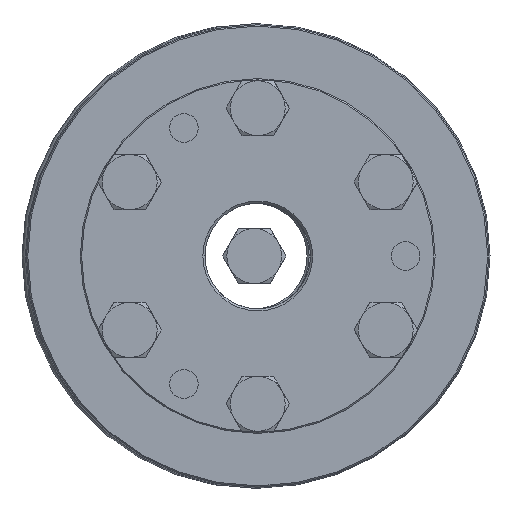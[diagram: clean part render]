
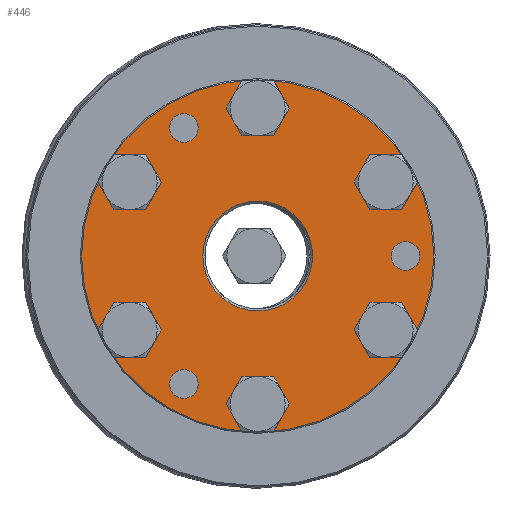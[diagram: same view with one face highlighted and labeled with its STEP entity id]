
A CAD part, left-side view. The second image highlights one B-rep face of the part: STEP entity #446.
In plain terms, the highlighted planar face has unit normal (-1, 0, 0).
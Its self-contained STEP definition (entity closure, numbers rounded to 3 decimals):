
#446 = ADVANCED_FACE( 'NONE', ( #844, #845, #846, #847, #848, #849, #850, #851, #852, #853, #854 ), #855, .F. );
#844 = FACE_OUTER_BOUND( '', #1197, .T. );
#845 = FACE_BOUND( '', #1198, .T. );
#846 = FACE_BOUND( '', #1199, .T. );
#847 = FACE_BOUND( '', #1200, .T. );
#848 = FACE_BOUND( '', #1201, .T. );
#849 = FACE_BOUND( '', #1202, .T. );
#850 = FACE_BOUND( '', #1203, .T. );
#851 = FACE_BOUND( '', #1204, .T. );
#852 = FACE_BOUND( '', #1205, .T. );
#853 = FACE_BOUND( '', #1206, .T. );
#854 = FACE_BOUND( '', #1207, .T. );
#855 = PLANE( '', #1208 );
#1197 = EDGE_LOOP( '', ( #1731 ) );
#1198 = EDGE_LOOP( '', ( #1732 ) );
#1199 = EDGE_LOOP( '', ( #1733 ) );
#1200 = EDGE_LOOP( '', ( #1734 ) );
#1201 = EDGE_LOOP( '', ( #1735 ) );
#1202 = EDGE_LOOP( '', ( #1736 ) );
#1203 = EDGE_LOOP( '', ( #1737 ) );
#1204 = EDGE_LOOP( '', ( #1738 ) );
#1205 = EDGE_LOOP( '', ( #1739 ) );
#1206 = EDGE_LOOP( '', ( #1740 ) );
#1207 = EDGE_LOOP( '', ( #1741 ) );
#1208 = AXIS2_PLACEMENT_3D( '', #1742, #1743, #1744 );
#1731 = ORIENTED_EDGE( '', *, *, #2013, .T. );
#1732 = ORIENTED_EDGE( '', *, *, #2014, .T. );
#1733 = ORIENTED_EDGE( '', *, *, #2015, .F. );
#1734 = ORIENTED_EDGE( '', *, *, #2016, .F. );
#1735 = ORIENTED_EDGE( '', *, *, #2001, .F. );
#1736 = ORIENTED_EDGE( '', *, *, #2017, .F. );
#1737 = ORIENTED_EDGE( '', *, *, #2018, .F. );
#1738 = ORIENTED_EDGE( '', *, *, #2019, .F. );
#1739 = ORIENTED_EDGE( '', *, *, #2020, .F. );
#1740 = ORIENTED_EDGE( '', *, *, #1999, .F. );
#1741 = ORIENTED_EDGE( '', *, *, #2021, .F. );
#1742 = CARTESIAN_POINT( '', ( 0., 12.5, 0. ) );
#1743 = DIRECTION( '', ( 1., 0., 0. ) );
#1744 = DIRECTION( '', ( 0., 1., 0. ) );
#1999 = EDGE_CURVE( 'NONE', #2220, #2220, #2221, .T. );
#2001 = EDGE_CURVE( 'NONE', #2224, #2224, #2225, .T. );
#2013 = EDGE_CURVE( 'NONE', #2248, #2248, #2249, .T. );
#2014 = EDGE_CURVE( 'NONE', #2250, #2250, #2251, .T. );
#2015 = EDGE_CURVE( 'NONE', #2252, #2252, #2253, .T. );
#2016 = EDGE_CURVE( 'NONE', #2254, #2254, #2255, .T. );
#2017 = EDGE_CURVE( 'NONE', #2256, #2256, #2257, .T. );
#2018 = EDGE_CURVE( 'NONE', #2258, #2258, #2259, .T. );
#2019 = EDGE_CURVE( 'NONE', #2260, #2260, #2261, .T. );
#2020 = EDGE_CURVE( 'NONE', #2262, #2262, #2263, .T. );
#2021 = EDGE_CURVE( 'NONE', #2264, #2264, #2265, .T. );
#2220 = VERTEX_POINT( '', #2432 );
#2221 = CIRCLE( '', #2433, 3.4 );
#2224 = VERTEX_POINT( '', #2436 );
#2225 = CIRCLE( '', #2437, 4.25 );
#2248 = VERTEX_POINT( '', #2460 );
#2249 = CIRCLE( '', #2461, 41.7 );
#2250 = VERTEX_POINT( '', #2462 );
#2251 = CIRCLE( '', #2463, 13. );
#2252 = VERTEX_POINT( '', #2464 );
#2253 = CIRCLE( '', #2465, 3.4 );
#2254 = VERTEX_POINT( '', #2466 );
#2255 = CIRCLE( '', #2467, 4.25 );
#2256 = VERTEX_POINT( '', #2468 );
#2257 = CIRCLE( '', #2469, 4.25 );
#2258 = VERTEX_POINT( '', #2470 );
#2259 = CIRCLE( '', #2471, 4.25 );
#2260 = VERTEX_POINT( '', #2472 );
#2261 = CIRCLE( '', #2473, 4.25 );
#2262 = VERTEX_POINT( '', #2474 );
#2263 = CIRCLE( '', #2475, 4.25 );
#2264 = VERTEX_POINT( '', #2476 );
#2265 = CIRCLE( '', #2477, 3.4 );
#2432 = CARTESIAN_POINT( '', ( 0., 17.5, 33.711 ) );
#2433 = AXIS2_PLACEMENT_3D( '', #2720, #2721, #2722 );
#2436 = CARTESIAN_POINT( '', ( 0., 30.311, 21.75 ) );
#2437 = AXIS2_PLACEMENT_3D( '', #2726, #2727, #2728 );
#2460 = CARTESIAN_POINT( '', ( 0., 0., -41.7 ) );
#2461 = AXIS2_PLACEMENT_3D( '', #2762, #2763, #2764 );
#2462 = CARTESIAN_POINT( '', ( 0., 0., -13. ) );
#2463 = AXIS2_PLACEMENT_3D( '', #2765, #2766, #2767 );
#2464 = CARTESIAN_POINT( '', ( 0., 17.5, -26.911 ) );
#2465 = AXIS2_PLACEMENT_3D( '', #2768, #2769, #2770 );
#2466 = CARTESIAN_POINT( '', ( 0., 0., 39.25 ) );
#2467 = AXIS2_PLACEMENT_3D( '', #2771, #2772, #2773 );
#2468 = CARTESIAN_POINT( '', ( 0., 30.311, -13.25 ) );
#2469 = AXIS2_PLACEMENT_3D( '', #2774, #2775, #2776 );
#2470 = CARTESIAN_POINT( '', ( 0., 0., -30.75 ) );
#2471 = AXIS2_PLACEMENT_3D( '', #2777, #2778, #2779 );
#2472 = CARTESIAN_POINT( '', ( 0., -30.311, -13.25 ) );
#2473 = AXIS2_PLACEMENT_3D( '', #2780, #2781, #2782 );
#2474 = CARTESIAN_POINT( '', ( 0., -30.311, 21.75 ) );
#2475 = AXIS2_PLACEMENT_3D( '', #2783, #2784, #2785 );
#2476 = CARTESIAN_POINT( '', ( 0., -35., 3.4 ) );
#2477 = AXIS2_PLACEMENT_3D( '', #2786, #2787, #2788 );
#2720 = CARTESIAN_POINT( '', ( 0., 17.5, 30.311 ) );
#2721 = DIRECTION( '', ( -1., 0., 0. ) );
#2722 = DIRECTION( '', ( 0., 0., 1. ) );
#2726 = CARTESIAN_POINT( '', ( 0., 30.311, 17.5 ) );
#2727 = DIRECTION( '', ( -1., 0., 0. ) );
#2728 = DIRECTION( '', ( 0., 0., 1. ) );
#2762 = CARTESIAN_POINT( '', ( 0., 0., 0. ) );
#2763 = DIRECTION( '', ( -1., 0., 0. ) );
#2764 = DIRECTION( '', ( 0., 0., -1. ) );
#2765 = CARTESIAN_POINT( '', ( 0., 0., 0. ) );
#2766 = DIRECTION( '', ( 1., 0., 0. ) );
#2767 = DIRECTION( '', ( 0., 0., -1. ) );
#2768 = CARTESIAN_POINT( '', ( 0., 17.5, -30.311 ) );
#2769 = DIRECTION( '', ( -1., 0., 0. ) );
#2770 = DIRECTION( '', ( 0., 0., 1. ) );
#2771 = CARTESIAN_POINT( '', ( 0., 0., 35. ) );
#2772 = DIRECTION( '', ( -1., 0., 0. ) );
#2773 = DIRECTION( '', ( 0., 0., 1. ) );
#2774 = CARTESIAN_POINT( '', ( 0., 30.311, -17.5 ) );
#2775 = DIRECTION( '', ( -1., 0., 0. ) );
#2776 = DIRECTION( '', ( 0., 0., 1. ) );
#2777 = CARTESIAN_POINT( '', ( 0., 0., -35. ) );
#2778 = DIRECTION( '', ( -1., 0., 0. ) );
#2779 = DIRECTION( '', ( 0., 0., 1. ) );
#2780 = CARTESIAN_POINT( '', ( 0., -30.311, -17.5 ) );
#2781 = DIRECTION( '', ( -1., 0., 0. ) );
#2782 = DIRECTION( '', ( 0., 0., 1. ) );
#2783 = CARTESIAN_POINT( '', ( 0., -30.311, 17.5 ) );
#2784 = DIRECTION( '', ( -1., 0., 0. ) );
#2785 = DIRECTION( '', ( 0., 0., 1. ) );
#2786 = CARTESIAN_POINT( '', ( 0., -35., 0. ) );
#2787 = DIRECTION( '', ( -1., 0., 0. ) );
#2788 = DIRECTION( '', ( 0., 0., 1. ) );
